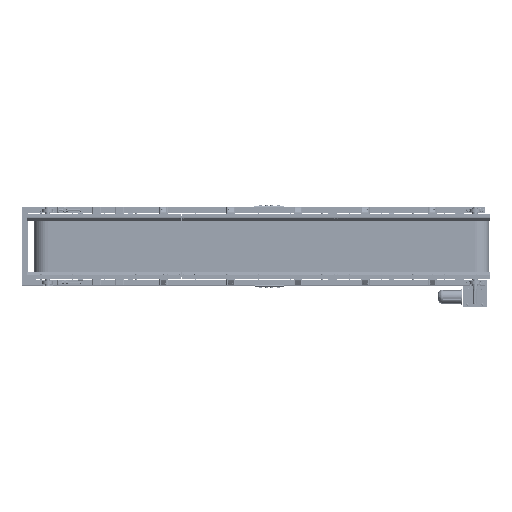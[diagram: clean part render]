
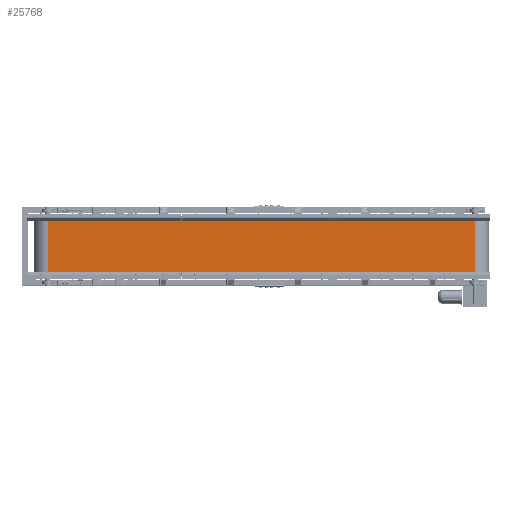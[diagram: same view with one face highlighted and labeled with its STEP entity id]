
A CAD part, top view. The second image highlights one B-rep face of the part: STEP entity #25768.
In plain terms, the highlighted planar face has unit normal (0, 0, 1).
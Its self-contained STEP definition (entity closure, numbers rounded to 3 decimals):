
#7297=PLANE('',#84388);
#14859=LINE('',#148792,#21804);
#14860=LINE('',#148795,#21805);
#14861=LINE('',#148797,#21806);
#14862=LINE('',#148799,#21807);
#21804=VECTOR('',#103029,1.);
#21805=VECTOR('',#103030,1.);
#21806=VECTOR('',#103031,1.);
#21807=VECTOR('',#103032,1.);
#25768=ADVANCED_FACE('',(#29630),#7297,.F.);
#29630=FACE_OUTER_BOUND('',#34088,.T.);
#34088=EDGE_LOOP('',(#58032,#58033,#58034,#58035));
#58032=ORIENTED_EDGE('',*,*,#76214,.F.);
#58033=ORIENTED_EDGE('',*,*,#76215,.F.);
#58034=ORIENTED_EDGE('',*,*,#76216,.F.);
#58035=ORIENTED_EDGE('',*,*,#76217,.F.);
#65334=VERTEX_POINT('',#148793);
#65335=VERTEX_POINT('',#148794);
#65336=VERTEX_POINT('',#148796);
#65337=VERTEX_POINT('',#148798);
#76214=EDGE_CURVE('',#65334,#65335,#14859,.T.);
#76215=EDGE_CURVE('',#65336,#65334,#14860,.T.);
#76216=EDGE_CURVE('',#65337,#65336,#14861,.T.);
#76217=EDGE_CURVE('',#65335,#65337,#14862,.T.);
#84388=AXIS2_PLACEMENT_3D('',#148800,#103033,#103034);
#103029=DIRECTION('',(0.,1.,0.));
#103030=DIRECTION('',(-1.,0.,0.));
#103031=DIRECTION('',(0.,-1.,0.));
#103032=DIRECTION('',(1.,0.,0.));
#103033=DIRECTION('',(0.,0.,-1.));
#103034=DIRECTION('',(1.,0.,0.));
#148792=CARTESIAN_POINT('',(-285.,-1963.,131.221));
#148793=CARTESIAN_POINT('',(-285.,-1963.,131.221));
#148794=CARTESIAN_POINT('',(-285.,2083.,131.221));
#148795=CARTESIAN_POINT('',(0.,-1963.,131.221));
#148796=CARTESIAN_POINT('',(285.,-1963.,131.221));
#148797=CARTESIAN_POINT('',(285.,-1963.,131.221));
#148798=CARTESIAN_POINT('',(285.,2083.,131.221));
#148799=CARTESIAN_POINT('',(0.,2083.,131.221));
#148800=CARTESIAN_POINT('',(0.,-1963.,131.221));
